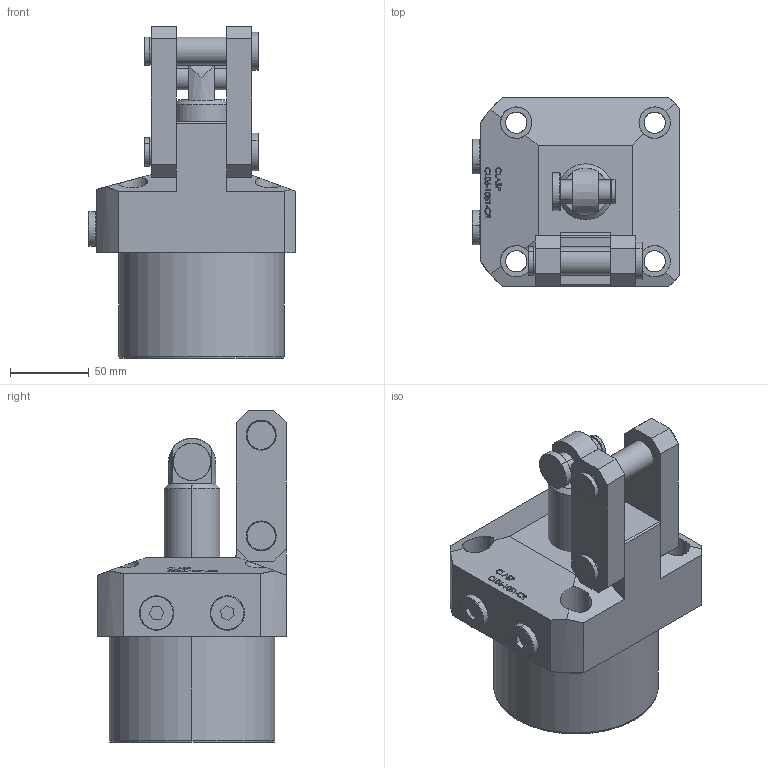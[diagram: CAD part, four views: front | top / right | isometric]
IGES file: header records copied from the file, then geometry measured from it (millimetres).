
Start section: SolidWorks IGES file using analytic representation for surfaces
Global section: file name: D:\karuppas\Clasp\3D model\Link clamp cylinder\CL06-1051-CR\CL06-1051-cr.IGS; native system: SolidWorks 2017; preprocessor: SolidWorks 2017; author: pc; date: 220705.231516; units: millimetre
Bounding box: 132 x 120 x 211 mm (x, y, z)
Surface area: 138017.7 mm2 (no closed solid volume)
Topology: 0 solids, 0 shells, 402 faces, 6194 edges, 6190 vertices
Faces by surface type: bspline 276, revolution 126
